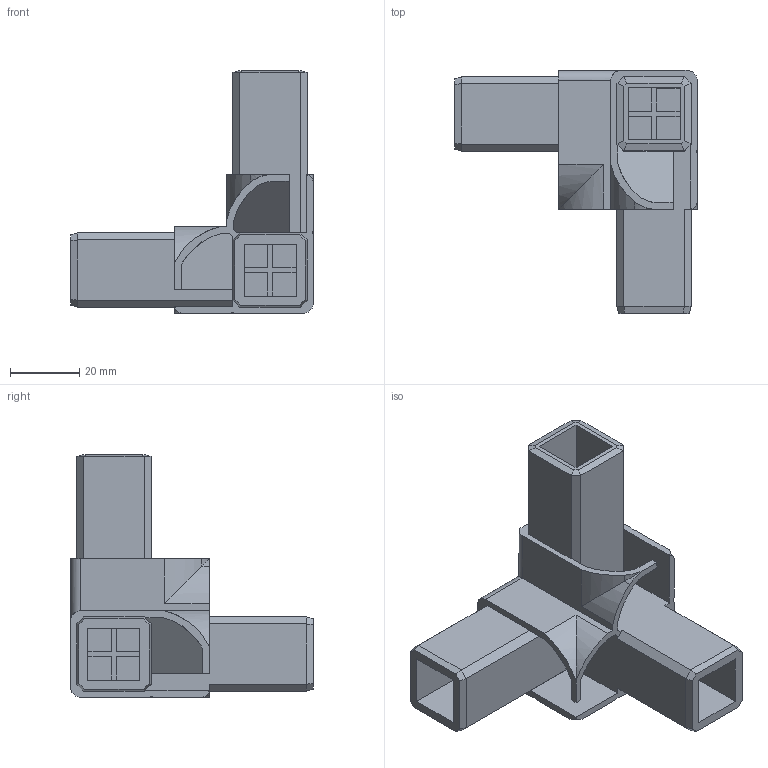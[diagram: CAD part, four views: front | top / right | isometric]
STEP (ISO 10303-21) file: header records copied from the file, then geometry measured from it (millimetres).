
FILE_DESCRIPTION (( 'STEP AP214' ), '1' );
FILE_NAME ('L15850.step', '2024-12-03T16:20:05', ( '' ), ( '' ), 'SwSTEP 2.0', 'SolidWorks 2023', '' );
FILE_SCHEMA (( 'AUTOMOTIVE_DESIGN' ));
Length unit declared in the file: millimetre
Products named in the file (1): L15850
Bounding box: 70 x 70 x 70 mm (x, y, z)
Volume: 51933.4 mm3; surface area: 32971.4 mm2
Topology: 1 solids, 1 shells, 144 faces, 413 edges, 260 vertices
Faces by surface type: plane 120, cylinder 17, cone 4, torus 2, sphere 1
Entity records: 4613 total; most frequent: CARTESIAN_POINT 857, ORIENTED_EDGE 820, DIRECTION 718, EDGE_CURVE 410, LINE 364, VECTOR 364, VERTEX_POINT 260, AXIS2_PLACEMENT_3D 177
